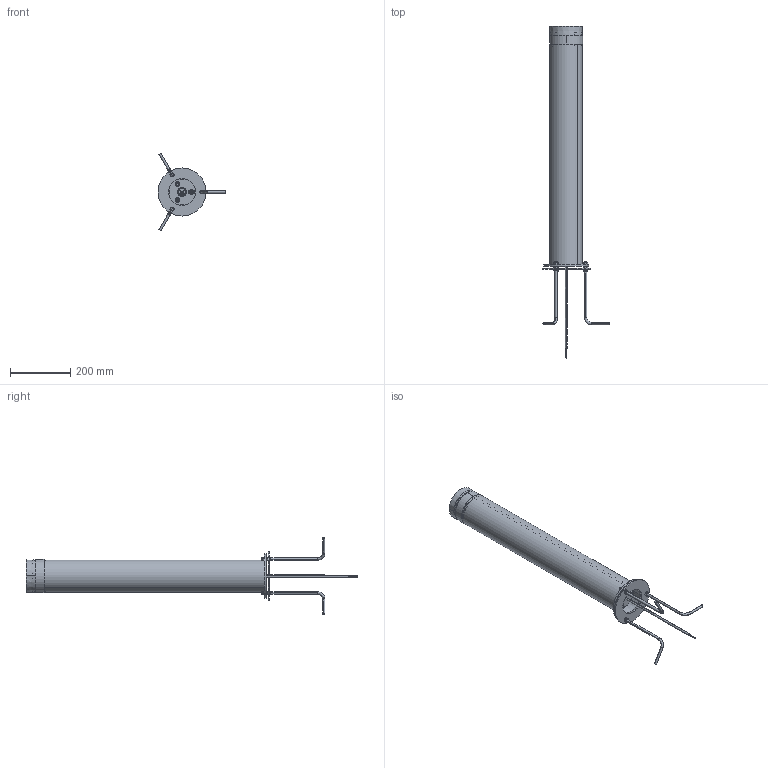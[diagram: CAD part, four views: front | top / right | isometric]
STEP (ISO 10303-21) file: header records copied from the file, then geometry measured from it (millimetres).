
FILE_DESCRIPTION((''),'2;1');
FILE_NAME('9AF-800_ASM','2024-09-18T',('C028'),(''),'CREO PARAMETRIC BY PTC INC, 2014190','CREO PARAMETRIC BY PTC INC, 2014190','');
FILE_SCHEMA(('CONFIG_CONTROL_DESIGN'));
Products named in the file (34): ___WO110__U_X___W_O__O___W___V2; ___WO110__U_X___W_O_________I_T; ___WO110__U_X___W_O_____PC_O_V2; ___WO110__U_X___W_O__O_______PC; M18; O-A1; ___WO110__U_X___W_O_V2______WO1_ASM; ______1; GUI_JIAO_QUAN; ___WO110__U_X___W_O____W_Z-5063_ASM; ____-____5; 9AB-03DUDINGZUOHOUGAI_1_8; ___WO110__U_X___W_O__U_O_-25766; LI_BAN-24; O-B1; DIAN_YUAN_01; DIAN_YUAN_02; ___WO110__U_X___W_O____W_-25881_ASM; 9AD-07_300_1_35; LI_BAN; GUANZI_1; 12-ZHUANGJIEGGAI_3; 6-23; DICHA14A_ASM_1_ASM; 9AB_FA_LAN_PAN_56; PIN; M8-25; YUAN_GUAN-800_ASM; 9AB-11_4__ANY; M8LUOMU_3__ANY; 9AB-10_5__ANY; 9ABDIZUO_AF5_ASM_333_ASM_1_ANY_ASM; _____WO110_E_U_X___W_O_V2_180_A_ASM; 9AF-800_ASM
Assembly tree (48 placements, depth 5):
  9AF-800_ASM
    _____WO110_E_U_X___W_O_V2_180_A_ASM
      ___WO110__U_X___W_O_V2______WO1_ASM
        ___WO110__U_X___W_O__O___W___V2
        ___WO110__U_X___W_O_________I_T
        ___WO110__U_X___W_O_____PC_O_V2
        ___WO110__U_X___W_O__O_______PC
        M18
        O-A1
      ___WO110__U_X___W_O____W_Z-5063_ASM
        ______1
        GUI_JIAO_QUAN  x2
      ___WO110__U_X___W_O____W_-25881_ASM
        ____-____5
        9AB-03DUDINGZUOHOUGAI_1_8
        ___WO110__U_X___W_O__U_O_-25766
        LI_BAN-24
        O-B1
        DIAN_YUAN_01
        DIAN_YUAN_02
      YUAN_GUAN-800_ASM
        9AD-07_300_1_35
        LI_BAN
        DICHA14A_ASM_1_ASM
          GUANZI_1
          12-ZHUANGJIEGGAI_3
          6-23
        9AB_FA_LAN_PAN_56
        PIN  x3
        M8-25  x3
      9ABDIZUO_AF5_ASM_333_ASM_1_ANY_ASM
        9AB-11_4__ANY  x3
        M8LUOMU_3__ANY  x9
        9AB-10_5__ANY
Bounding box: 226.5 x 1106.03 x 257.75 mm (x, y, z)
Volume: 1751745 mm3; surface area: 1094309.9 mm2
Topology: 42 solids, 42 shells, 2415 faces, 6167 edges, 3968 vertices
Faces by surface type: plane 1004, cylinder 595, cone 379, bspline 218, torus 142, extrusion 69, sphere 8
Entity records: 89714 total; most frequent: CARTESIAN_POINT 39739, ORIENTED_EDGE 10482, DIRECTION 9925, EDGE_CURVE 5241, AXIS2_PLACEMENT_3D 3551, VERTEX_POINT 3406, VECTOR 2823, LINE 2754
